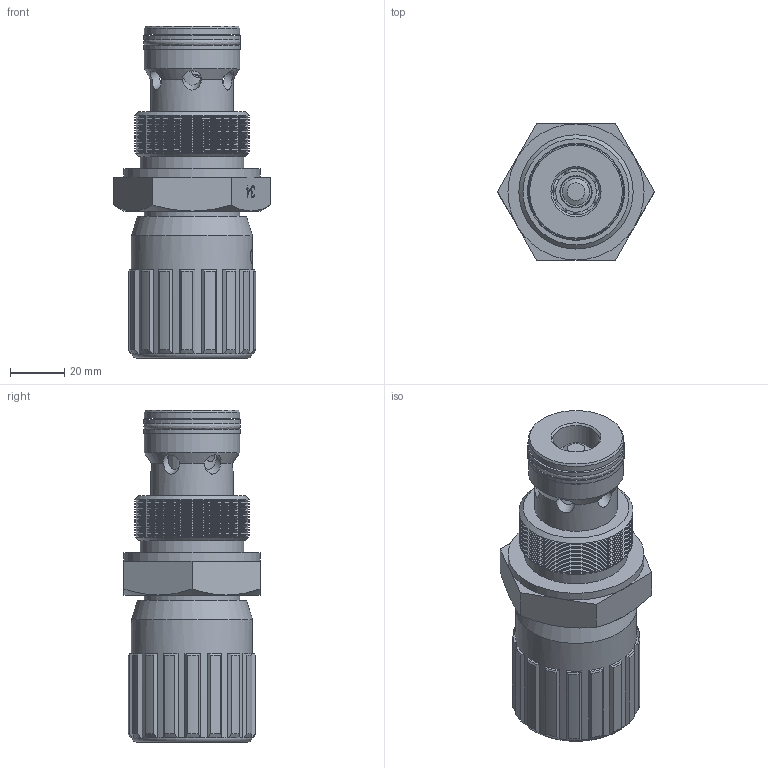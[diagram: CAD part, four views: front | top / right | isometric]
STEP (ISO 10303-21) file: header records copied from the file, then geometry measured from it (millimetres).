
FILE_DESCRIPTION (( 'STEP AP214' ), '1' );
FILE_NAME ('FT2267_5-34.STEP', '2015-04-15T13:28:19', ( 'cperuzzotti' ), ( 'Hewlett-Packard Company' ), 'SwSTEP 2.0', 'SolidWorks 2014', '' );
FILE_SCHEMA (( 'AUTOMOTIVE_DESIGN' ));
Length unit declared in the file: millimetre
Products named in the file (1): FT2267_5-34
Bounding box: 57.73 x 50 x 122 mm (x, y, z)
Surface area: 30843.3 mm2 (no closed solid volume)
Topology: 0 solids, 20 shells, 398 faces, 1394 edges, 992 vertices
Faces by surface type: plane 190, cone 99, cylinder 79, bspline 29, torus 1
Full cylindrical faces by diameter (mm): 5 x7, 7 x6, 17 x1, 19.5 x1, 23.3 x1, 26 x1, 30.5 x1, 35 x2, 35.1 x1, 35.59 x2, 38 x1, 42 x22, 44.5 x1, 50 x1
Entity records: 23878 total; most frequent: CARTESIAN_POINT 8544, DIRECTION 2072, ORIENTED_EDGE 2038, EDGE_CURVE 1264, VERTEX_POINT 972, LINE 732, VECTOR 732, AXIS2_PLACEMENT_3D 670
